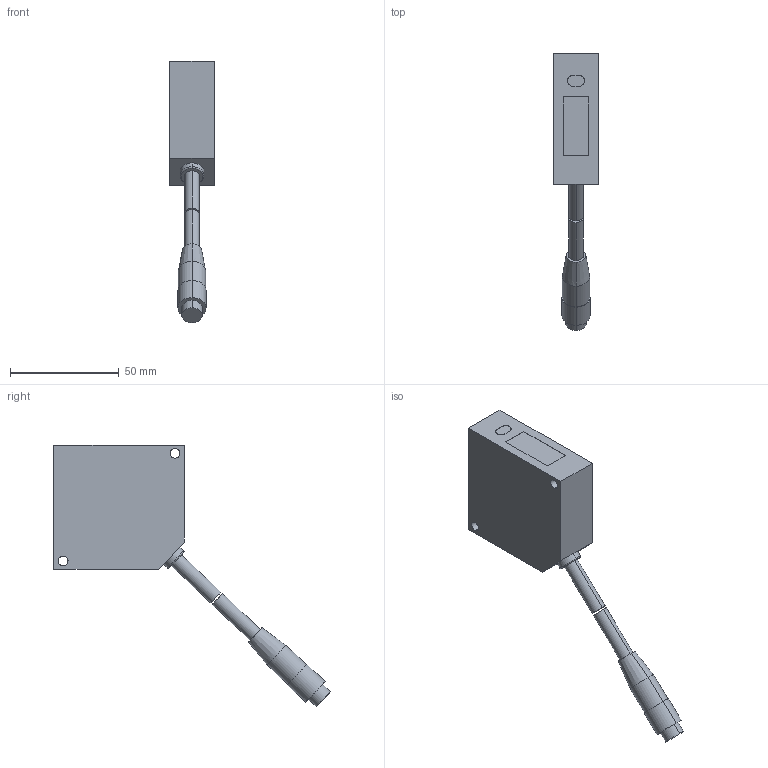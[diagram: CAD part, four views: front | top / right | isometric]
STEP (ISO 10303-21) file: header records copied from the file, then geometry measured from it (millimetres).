
FILE_DESCRIPTION (( 'STEP AP203' ), '1' );
FILE_NAME ('hl-g103-s-j.STEP', '2010-10-01T08:25:37', ( ' ' ), ( ' ' ), 'SwSTEP 2.0', 'SolidWorks 2007', '' );
FILE_SCHEMA (( 'CONFIG_CONTROL_DESIGN' ));
Length unit declared in the file: millimetre
Products named in the file (1): hl-g103-s-j
Bounding box: 20.4 x 127.14 x 120.23 mm (x, y, z)
Volume: 74364.1 mm3; surface area: 14806.8 mm2
Topology: 2 solids, 2 shells, 83 faces, 188 edges, 124 vertices
Faces by surface type: plane 56, cylinder 23, torus 2, cone 2
Entity records: 2405 total; most frequent: DIRECTION 408, CARTESIAN_POINT 396, ORIENTED_EDGE 376, EDGE_CURVE 188, LINE 136, AXIS2_PLACEMENT_3D 136, VECTOR 136, VERTEX_POINT 124
